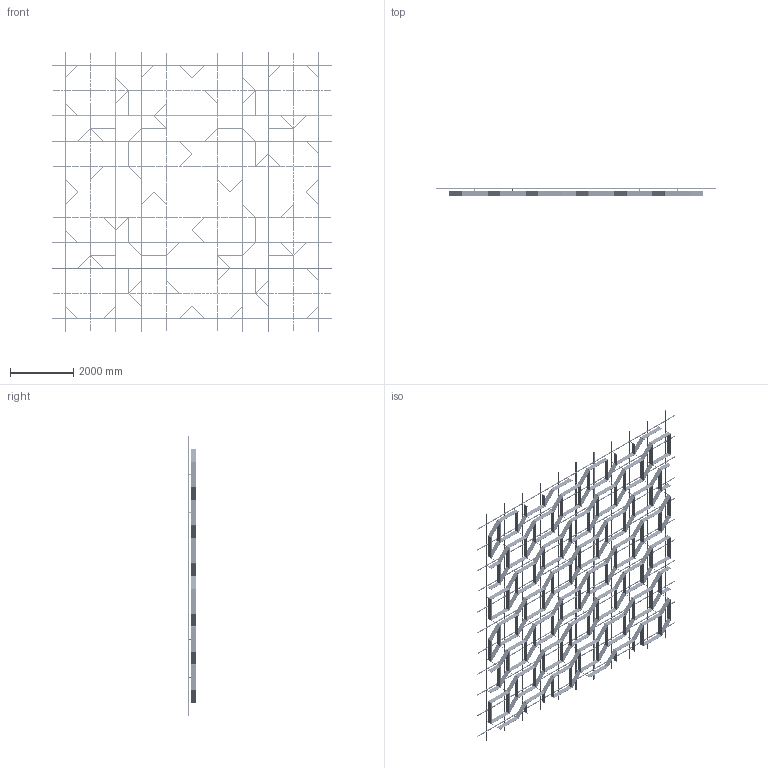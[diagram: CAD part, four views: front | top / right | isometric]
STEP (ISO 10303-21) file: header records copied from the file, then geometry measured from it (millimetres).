
FILE_DESCRIPTION (( 'STEP AP214' ), '1' );
FILE_NAME ('OPT_Var30.STEP', '2025-09-11T13:04:13', ( '' ), ( '' ), 'SwSTEP 2.0', 'SolidWorks 2020', '' );
FILE_SCHEMA (( 'AUTOMOTIVE_DESIGN' ));
Length unit declared in the file: millimetre
Products named in the file (5): OPT_Var30; SS.SEMA.2400 - Ñèìà-ïðîôèëü; Ñèñòåìà â çîíå 8000õ8000; 謶鎷ar30; SS.SEMA.2400 - Ñèìà-ïðîôèëü — îáðåçàí 1600
Assembly tree (90 placements, depth 3):
  OPT_Var30
    Ñèñòåìà â çîíå 8000õ8000
      SS.SEMA.2400 - Ñèìà-ïðîôèëü  x66
      SS.SEMA.2400 - Ñèìà-ïðîôèëü — îáðåçàí 1600  x22
    謶鎷ar30
Bounding box: 8800 x 253 x 8800 mm (x, y, z)
Volume: 286767749.3 mm3; surface area: 99692443.2 mm2
Topology: 1192 solids, 1192 shells, 21588 faces, 56204 edges, 37000 vertices
Faces by surface type: cylinder 13394, plane 8194
Entity records: 139897 total; most frequent: CARTESIAN_POINT 29818, ORIENTED_EDGE 19256, DIRECTION 18674, EDGE_CURVE 9628, AXIS2_PLACEMENT_3D 9088, VERTEX_POINT 6408, EDGE_LOOP 5594, B_SPLINE_CURVE_WITH_KNOTS 5568
